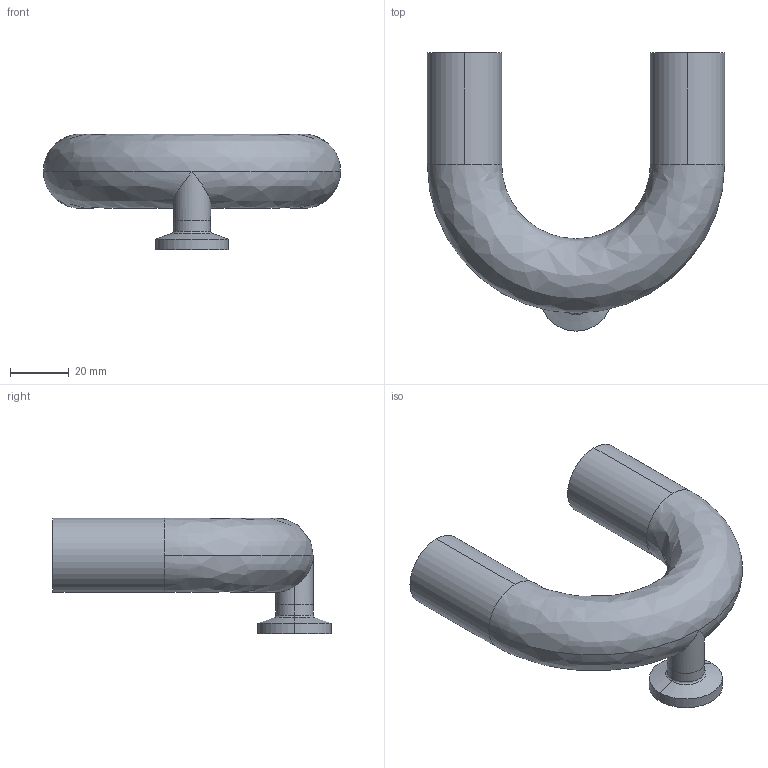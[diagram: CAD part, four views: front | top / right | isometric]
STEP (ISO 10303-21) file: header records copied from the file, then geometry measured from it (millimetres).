
FILE_DESCRIPTION (( 'STEP AP214' ), '1' );
FILE_NAME ('TE2USWWC6L1.0x.5-...STEP', '2016-05-25T05:39:54', ( 'eran' ), ( '' ), 'SwSTEP 2.0', 'SolidWorks 2016', '' );
FILE_SCHEMA (( 'AUTOMOTIVE_DESIGN' ));
Length unit declared in the file: millimetre
Products named in the file (1): TE2USWWC6L1.0x.5-..
Bounding box: 101.6 x 95.05 x 39.6 mm (x, y, z)
Volume: 26271.7 mm3; surface area: 31570.6 mm2
Topology: 2 solids, 2 shells, 42 faces, 100 edges, 62 vertices
Faces by surface type: cylinder 20, bspline 12, plane 6, cone 4
Entity records: 1705 total; most frequent: CARTESIAN_POINT 689, DIRECTION 218, ORIENTED_EDGE 200, EDGE_CURVE 100, AXIS2_PLACEMENT_3D 97, CIRCLE 66, VERTEX_POINT 62, EDGE_LOOP 48
